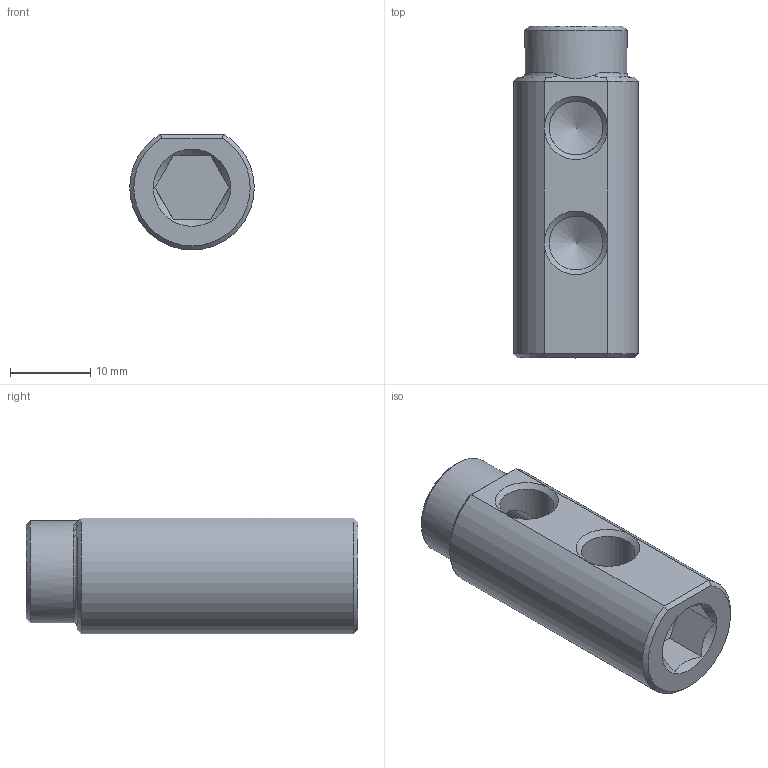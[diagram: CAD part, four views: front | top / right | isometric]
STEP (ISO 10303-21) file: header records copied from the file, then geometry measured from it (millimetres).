
FILE_DESCRIPTION(/* description */ (''),/* implementation_level */ '2;1');
FILE_NAME(/* name */ 'C:/Users/drich/Desktop/E16H v2.step',/* time_stamp */ '2019-11-18T13:42:24-06:00',/* author */ (''),/* organization */ (''),/* preprocessor_version */ 'ST-DEVELOPER v18',/* originating_system */ 'Autodesk Translation Framework v8.12.0.6',/* authorisation */ '');
FILE_SCHEMA (('AUTOMOTIVE_DESIGN { 1 0 10303 214 3 1 1 }'));
Length unit declared in the file: inch
Products named in the file (2): E16H; E16H_1
Assembly tree (1 placements, depth 2):
  E16H
    E16H_1
Bounding box: 15.49 x 41.27 x 14.43 mm (x, y, z)
Volume: 5408.2 mm3; surface area: 3165 mm2
Topology: 1 solids, 1 shells, 36 faces, 99 edges, 63 vertices
Faces by surface type: plane 16, cone 10, cylinder 9, torus 1
Full cylindrical faces by diameter (mm): 4.064 x1, 6.697 x5, 9.296 x1, 12.7 x1
Entity records: 1295 total; most frequent: CARTESIAN_POINT 344, ORIENTED_EDGE 194, DIRECTION 185, EDGE_CURVE 97, AXIS2_PLACEMENT_3D 73, VERTEX_POINT 63, EDGE_LOOP 40, LINE 39
